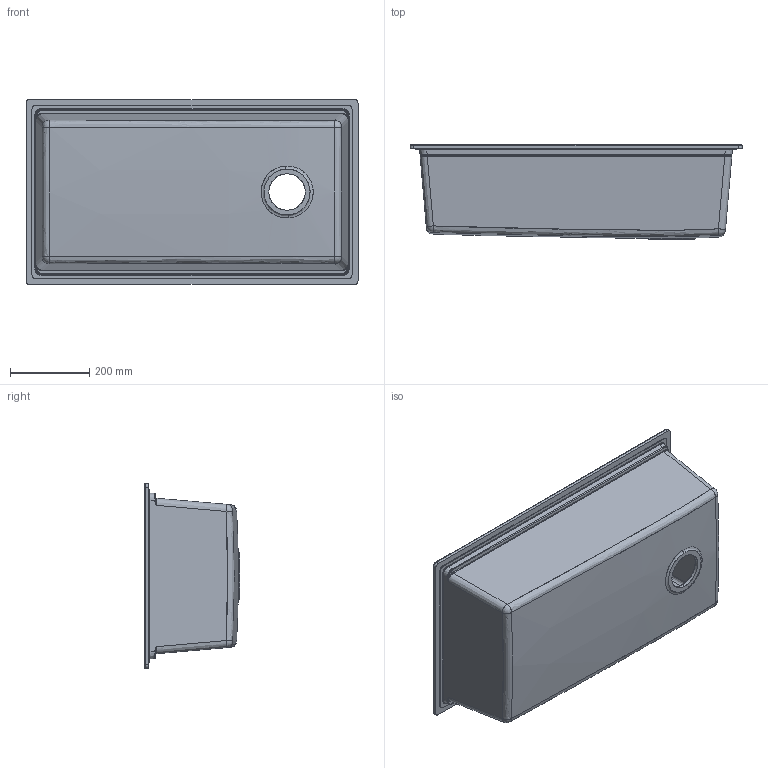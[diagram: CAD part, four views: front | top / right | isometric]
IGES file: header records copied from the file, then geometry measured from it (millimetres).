
Start section: SolidWorks IGES file using analytic representation for surfaces
Global section: file name: W:\mliu8\project\ADHOC-02291\sku_faum3318wsseries_igs\sku_faum3318wsseries_igs.IGS; native system: SolidWorks 2023; preprocessor: SolidWorks 2023; author: mliu8; date: 240801.153604; units: millimetre
Bounding box: 838.2 x 240 x 467 mm (x, y, z)
Surface area: 1672137.7 mm2 (no closed solid volume)
Topology: 0 solids, 0 shells, 147 faces, 1918 edges, 1901 vertices
Faces by surface type: bspline 135, revolution 12
